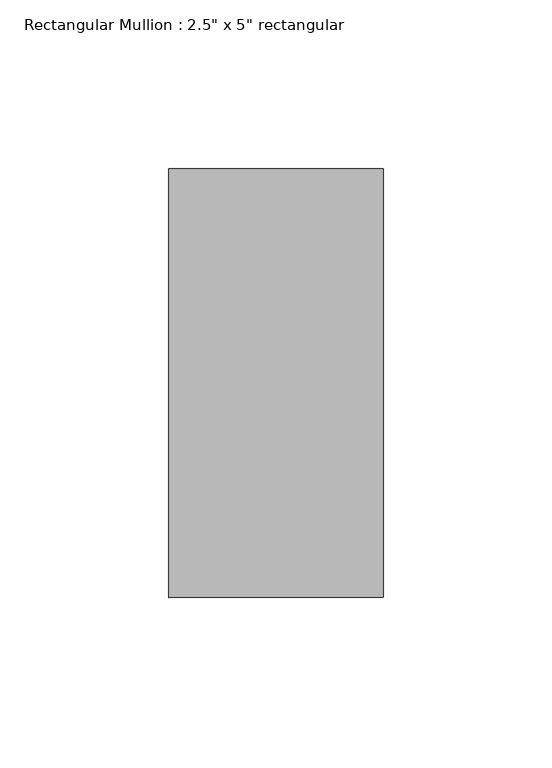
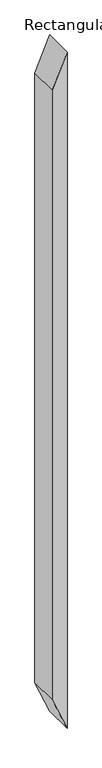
"""IFC4 building model written with IfcOpenShell, lengths in millimetres: member geometry."""

from ifc_helpers import new_model, si_unit, frame, origin, place, context, project, spatial, polyline, outline, extrude, source, transform, mapped, element, save


def member_aca151d9(model_context):
    return source(origin(), model_context, "Body", "SweptSolid", [
        extrude(outline(polyline([(0.0, 0.0), (-150.0761281, -63.5), (-2893.923872, -63.5), (-3044.0000001, 0.0), (0.0, 0.0)])), frame((0.0, -63.5, 0.0), z_axis=(0.0, 1.0, 0.0), x_axis=(0.0, 0.0, 1.0)), (0.0, 0.0, 1.0), 127.0),
    ])


if __name__ == "__main__":
    model = new_model("IFC4")
    model_context = context("Model", 3, world=origin())
    ifc_project = project(units=[si_unit("LENGTHUNIT", "METRE", prefix="MILLI")], contexts=[model_context])
    site = spatial("IfcSite", under=ifc_project)
    building = spatial("IfcBuilding", under=site)
    placement = place(None, origin())
    member_shape = member_aca151d9(model_context)
    element("IfcMember", 1, ObjectType="Rectangular Mullion : 2.5\" x 5\" rectangular", at=placement, inside=building, context=model_context, shape_type="MappedRepresentation", body=[
        mapped(member_shape, transform((0.0, 0.0, 0.0), x_axis=(1.0, 0.0, 0.0), y_axis=(0.0, 1.0, 0.0), z_axis=(0.0, 0.0, 1.0))),
    ])
    save(model, "model.ifc")
